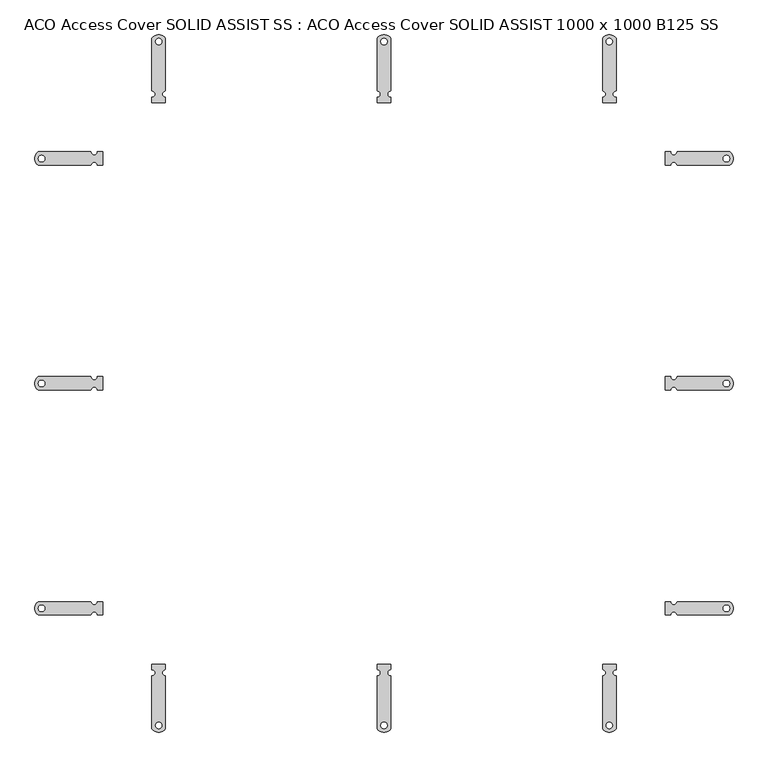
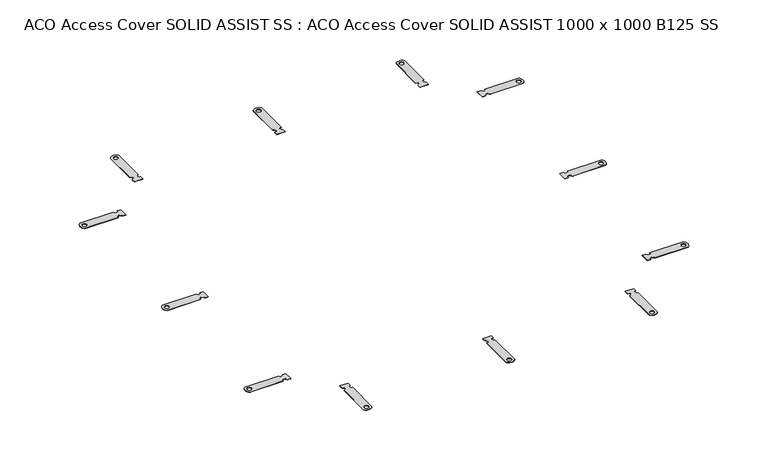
"""IFC4 building model written with IfcOpenShell, lengths in millimetres: proxy geometry, ACO Access Cover SOLID ASSIST SS : ACO Access Cover SOLID ASSIST 1000 x 1000 B125 SS."""

from ifc_helpers import new_model, si_unit, point, frame, frame_2d, origin, place, context, project, spatial, polyline, circle_curve, trimmed, segment, composite_curve, outline, extrude, source, transform, mapped, element, save


def aco_access_cover_solid_assist_ss_aco_access_cover_solid_80ac9a24(model_context):
    return source(origin(), model_context, "Body", "SweptSolid", [
        extrude(outline(composite_curve([segment(polyline([(-12.5, 542.5), (-12.5, 640.4874922)]), True, "CONTINUOUS"), segment(trimmed(circle_curve(frame_2d((0.0, 630.5)), 16.0), [point((-12.5, 640.4874922))], [point((12.5, 640.4874922))], False, "CARTESIAN"), True, "CONTINUOUS"), segment(polyline([(12.5, 640.4874922), (12.5, 542.5)]), True, "CONTINUOUS"), segment(trimmed(circle_curve(frame_2d((12.5, 536.5)), 6.0), [point((12.5, 542.5))], [point((12.5, 530.5))], True, "CARTESIAN"), True, "CONTINUOUS"), segment(polyline([(12.5, 530.5), (12.5, 520.5), (-12.5, 520.5), (-12.5, 530.5)]), True, "CONTINUOUS"), segment(trimmed(circle_curve(frame_2d((-12.5, 536.5)), 6.0), [point((-12.5, 530.5))], [point((-12.5, 542.5))], True, "CARTESIAN"), True, "CONTINUOUS")], self_intersect=False), holes=[composite_curve([segment(trimmed(circle_curve(frame_2d((0.0, 634.0)), 6.0), [point((-6.0, 634.0))], [point((6.0, 634.0))], True, "CARTESIAN"), True, "CONTINUOUS"), segment(trimmed(circle_curve(frame_2d((0.0, 634.0)), 6.0), [point((6.0, 634.0))], [point((-6.0, 634.0))], True, "CARTESIAN"), True, "CONTINUOUS")], self_intersect=False)]), frame((0.0, 0.0, -41.0), z_axis=(0.0, 0.0, 1.0), x_axis=(1.0, 0.0, 0.0)), (0.0, 0.0, 1.0), 1.0),
        extrude(outline(composite_curve([segment(trimmed(circle_curve(frame_2d((-12.5, -536.5)), 6.0), [point((-12.5, -542.5))], [point((-12.5, -530.5))], True, "CARTESIAN"), True, "CONTINUOUS"), segment(polyline([(-12.5, -530.5), (-12.5, -520.5), (12.5, -520.5), (12.5, -530.5)]), True, "CONTINUOUS"), segment(trimmed(circle_curve(frame_2d((12.5, -536.5)), 6.0), [point((12.5, -530.5))], [point((12.5, -542.5))], True, "CARTESIAN"), True, "CONTINUOUS"), segment(polyline([(12.5, -542.5), (12.5, -640.4874922)]), True, "CONTINUOUS"), segment(trimmed(circle_curve(frame_2d((0.0, -630.5)), 16.0), [point((12.5, -640.4874922))], [point((-12.5, -640.4874922))], False, "CARTESIAN"), True, "CONTINUOUS"), segment(polyline([(-12.5, -640.4874922), (-12.5, -542.5)]), True, "CONTINUOUS")], self_intersect=False), holes=[composite_curve([segment(trimmed(circle_curve(frame_2d((0.0, -634.0)), 6.0), [point((-6.0, -634.0))], [point((6.0, -634.0))], True, "CARTESIAN"), True, "CONTINUOUS"), segment(trimmed(circle_curve(frame_2d((0.0, -634.0)), 6.0), [point((6.0, -634.0))], [point((-6.0, -634.0))], True, "CARTESIAN"), True, "CONTINUOUS")], self_intersect=False)]), frame((0.0, 0.0, -41.0), z_axis=(0.0, 0.0, 1.0), x_axis=(1.0, 0.0, 0.0)), (0.0, 0.0, 1.0), 1.0),
        extrude(outline(composite_curve([segment(polyline([(521.0, 12.5), (531.0, 12.5)]), True, "CONTINUOUS"), segment(trimmed(circle_curve(frame_2d((537.0, 12.5)), 6.0), [point((531.0, 12.5))], [point((543.0, 12.5))], True, "CARTESIAN"), True, "CONTINUOUS"), segment(polyline([(543.0, 12.5), (640.9874922, 12.5)]), True, "CONTINUOUS"), segment(trimmed(circle_curve(frame_2d((631.0, 0.0)), 16.0), [point((640.9874922, 12.5))], [point((640.9874922, -12.5))], False, "CARTESIAN"), True, "CONTINUOUS"), segment(polyline([(640.9874922, -12.5), (543.0, -12.5)]), True, "CONTINUOUS"), segment(trimmed(circle_curve(frame_2d((537.0, -12.5)), 6.0), [point((543.0, -12.5))], [point((531.0, -12.5))], True, "CARTESIAN"), True, "CONTINUOUS"), segment(polyline([(531.0, -12.5), (521.0, -12.5), (521.0, 12.5)]), True, "CONTINUOUS")], self_intersect=False), holes=[composite_curve([segment(trimmed(circle_curve(frame_2d((634.5, 0.0)), 6.0), [point((628.5, 0.0))], [point((640.5, 0.0))], True, "CARTESIAN"), True, "CONTINUOUS"), segment(trimmed(circle_curve(frame_2d((634.5, 0.0)), 6.0), [point((640.5, 0.0))], [point((628.5, 0.0))], True, "CARTESIAN"), True, "CONTINUOUS")], self_intersect=False)]), frame((0.0, 0.0, -41.0), z_axis=(0.0, 0.0, 1.0), x_axis=(1.0, 0.0, 0.0)), (0.0, 0.0, 1.0), 1.0),
        extrude(outline(composite_curve([segment(polyline([(-521.0, 12.5), (-521.0, -12.5), (-531.0, -12.5)]), True, "CONTINUOUS"), segment(trimmed(circle_curve(frame_2d((-537.0, -12.5)), 6.0), [point((-531.0, -12.5))], [point((-543.0, -12.5))], True, "CARTESIAN"), True, "CONTINUOUS"), segment(polyline([(-543.0, -12.5), (-640.9874922, -12.5)]), True, "CONTINUOUS"), segment(trimmed(circle_curve(frame_2d((-631.0, 0.0)), 16.0), [point((-640.9874922, -12.5))], [point((-640.9874922, 12.5))], False, "CARTESIAN"), True, "CONTINUOUS"), segment(polyline([(-640.9874922, 12.5), (-543.0, 12.5)]), True, "CONTINUOUS"), segment(trimmed(circle_curve(frame_2d((-537.0, 12.5)), 6.0), [point((-543.0, 12.5))], [point((-531.0, 12.5))], True, "CARTESIAN"), True, "CONTINUOUS"), segment(polyline([(-531.0, 12.5), (-521.0, 12.5)]), True, "CONTINUOUS")], self_intersect=False), holes=[composite_curve([segment(trimmed(circle_curve(frame_2d((-634.5, 0.0)), 6.0), [point((-640.5, 0.0))], [point((-628.5, 0.0))], True, "CARTESIAN"), True, "CONTINUOUS"), segment(trimmed(circle_curve(frame_2d((-634.5, 0.0)), 6.0), [point((-628.5, 0.0))], [point((-640.5, 0.0))], True, "CARTESIAN"), True, "CONTINUOUS")], self_intersect=False)]), frame((0.0, 0.0, -41.0), z_axis=(0.0, 0.0, 1.0), x_axis=(1.0, 0.0, 0.0)), (0.0, 0.0, 1.0), 1.0),
        extrude(outline(composite_curve([segment(polyline([(521.0, 429.5), (531.0, 429.5)]), True, "CONTINUOUS"), segment(trimmed(circle_curve(frame_2d((537.0052893, 429.5)), 6.0052893), [point((531.0, 429.5))], [point((543.0105785, 429.5))], True, "CARTESIAN"), True, "CONTINUOUS"), segment(polyline([(543.0105785, 429.5), (640.9771339, 429.5)]), True, "CONTINUOUS"), segment(trimmed(circle_curve(frame_2d((631.0156688, 417.0)), 15.9837663), [point((640.9771339, 429.5))], [point((640.9771339, 404.5))], False, "CARTESIAN"), True, "CONTINUOUS"), segment(polyline([(640.9771339, 404.5), (543.023995, 404.5)]), True, "CONTINUOUS"), segment(trimmed(circle_curve(frame_2d((537.0319344, 404.5)), 5.9920606), [point((543.023995, 404.5))], [point((531.0398738, 404.5))], True, "CARTESIAN"), True, "CONTINUOUS"), segment(polyline([(531.0398738, 404.5), (521.0, 404.5), (521.0, 429.5)]), True, "CONTINUOUS")], self_intersect=False), holes=[composite_curve([segment(trimmed(circle_curve(frame_2d((634.5, 417.0)), 6.0), [point((628.5, 417.0))], [point((640.5, 417.0))], True, "CARTESIAN"), True, "CONTINUOUS"), segment(trimmed(circle_curve(frame_2d((634.5, 417.0)), 6.0), [point((640.5, 417.0))], [point((628.5, 417.0))], True, "CARTESIAN"), True, "CONTINUOUS")], self_intersect=False)]), frame((0.0, 0.0, -41.0), z_axis=(0.0, 0.0, 1.0), x_axis=(1.0, 0.0, 0.0)), (0.0, 0.0, 1.0), 1.0),
        extrude(outline(composite_curve([segment(polyline([(405.0, 520.5), (405.0, 530.5)]), True, "CONTINUOUS"), segment(trimmed(circle_curve(frame_2d((405.0, 536.5052893)), 6.0052893), [point((405.0, 530.5))], [point((405.0, 542.5105785))], True, "CARTESIAN"), True, "CONTINUOUS"), segment(polyline([(405.0, 542.5105785), (405.0, 640.4771339)]), True, "CONTINUOUS"), segment(trimmed(circle_curve(frame_2d((417.5, 630.5156688)), 15.9837663), [point((405.0, 640.4771339))], [point((430.0, 640.4771339))], False, "CARTESIAN"), True, "CONTINUOUS"), segment(polyline([(430.0, 640.4771339), (430.0, 542.523995)]), True, "CONTINUOUS"), segment(trimmed(circle_curve(frame_2d((430.0, 536.5319344)), 5.9920606), [point((430.0, 542.523995))], [point((430.0, 530.5398738))], True, "CARTESIAN"), True, "CONTINUOUS"), segment(polyline([(430.0, 530.5398738), (430.0, 520.5), (405.0, 520.5)]), True, "CONTINUOUS")], self_intersect=False), holes=[composite_curve([segment(trimmed(circle_curve(frame_2d((417.5, 634.0)), 6.0), [point((411.5, 634.0))], [point((423.5, 634.0))], True, "CARTESIAN"), True, "CONTINUOUS"), segment(trimmed(circle_curve(frame_2d((417.5, 634.0)), 6.0), [point((423.5, 634.0))], [point((411.5, 634.0))], True, "CARTESIAN"), True, "CONTINUOUS")], self_intersect=False)]), frame((0.0, 0.0, -41.0), z_axis=(0.0, 0.0, 1.0), x_axis=(1.0, 0.0, 0.0)), (0.0, 0.0, 1.0), 1.0),
        extrude(outline(composite_curve([segment(polyline([(521.0, -429.5), (521.0, -404.5), (531.0398738, -404.5)]), True, "CONTINUOUS"), segment(trimmed(circle_curve(frame_2d((537.0319344, -404.5)), 5.9920606), [point((531.0398738, -404.5))], [point((543.023995, -404.5))], True, "CARTESIAN"), True, "CONTINUOUS"), segment(polyline([(543.023995, -404.5), (640.9771339, -404.5)]), True, "CONTINUOUS"), segment(trimmed(circle_curve(frame_2d((631.0156688, -417.0)), 15.9837663), [point((640.9771339, -404.5))], [point((640.9771339, -429.5))], False, "CARTESIAN"), True, "CONTINUOUS"), segment(polyline([(640.9771339, -429.5), (543.0105785, -429.5)]), True, "CONTINUOUS"), segment(trimmed(circle_curve(frame_2d((537.0052893, -429.5)), 6.0052893), [point((543.0105785, -429.5))], [point((531.0, -429.5))], True, "CARTESIAN"), True, "CONTINUOUS"), segment(polyline([(531.0, -429.5), (521.0, -429.5)]), True, "CONTINUOUS")], self_intersect=False), holes=[composite_curve([segment(trimmed(circle_curve(frame_2d((634.5, -417.0)), 6.0), [point((628.5, -417.0))], [point((640.5, -417.0))], True, "CARTESIAN"), True, "CONTINUOUS"), segment(trimmed(circle_curve(frame_2d((634.5, -417.0)), 6.0), [point((640.5, -417.0))], [point((628.5, -417.0))], True, "CARTESIAN"), True, "CONTINUOUS")], self_intersect=False)]), frame((0.0, 0.0, -41.0), z_axis=(0.0, 0.0, 1.0), x_axis=(1.0, 0.0, 0.0)), (0.0, 0.0, 1.0), 1.0),
        extrude(outline(composite_curve([segment(polyline([(-521.0, 429.5), (-521.0, 404.5), (-531.0398738, 404.5)]), True, "CONTINUOUS"), segment(trimmed(circle_curve(frame_2d((-537.0319344, 404.5)), 5.9920606), [point((-531.0398738, 404.5))], [point((-543.023995, 404.5))], True, "CARTESIAN"), True, "CONTINUOUS"), segment(polyline([(-543.023995, 404.5), (-640.9771339, 404.5)]), True, "CONTINUOUS"), segment(trimmed(circle_curve(frame_2d((-631.0156688, 417.0)), 15.9837663), [point((-640.9771339, 404.5))], [point((-640.9771339, 429.5))], False, "CARTESIAN"), True, "CONTINUOUS"), segment(polyline([(-640.9771339, 429.5), (-543.0105785, 429.5)]), True, "CONTINUOUS"), segment(trimmed(circle_curve(frame_2d((-537.0052893, 429.5)), 6.0052893), [point((-543.0105785, 429.5))], [point((-531.0, 429.5))], True, "CARTESIAN"), True, "CONTINUOUS"), segment(polyline([(-531.0, 429.5), (-521.0, 429.5)]), True, "CONTINUOUS")], self_intersect=False), holes=[composite_curve([segment(trimmed(circle_curve(frame_2d((-634.5, 417.0)), 6.0), [point((-640.5, 417.0))], [point((-628.5, 417.0))], True, "CARTESIAN"), True, "CONTINUOUS"), segment(trimmed(circle_curve(frame_2d((-634.5, 417.0)), 6.0), [point((-628.5, 417.0))], [point((-640.5, 417.0))], True, "CARTESIAN"), True, "CONTINUOUS")], self_intersect=False)]), frame((0.0, 0.0, -41.0), z_axis=(0.0, 0.0, 1.0), x_axis=(1.0, 0.0, 0.0)), (0.0, 0.0, 1.0), 1.0),
        extrude(outline(composite_curve([segment(polyline([(-405.0, 520.5), (-430.0, 520.5), (-430.0, 530.5398738)]), True, "CONTINUOUS"), segment(trimmed(circle_curve(frame_2d((-430.0, 536.5319344)), 5.9920606), [point((-430.0, 530.5398738))], [point((-430.0, 542.523995))], True, "CARTESIAN"), True, "CONTINUOUS"), segment(polyline([(-430.0, 542.523995), (-430.0, 640.4771339)]), True, "CONTINUOUS"), segment(trimmed(circle_curve(frame_2d((-417.5, 630.5156688)), 15.9837663), [point((-430.0, 640.4771339))], [point((-405.0, 640.4771339))], False, "CARTESIAN"), True, "CONTINUOUS"), segment(polyline([(-405.0, 640.4771339), (-405.0, 542.5105785)]), True, "CONTINUOUS"), segment(trimmed(circle_curve(frame_2d((-405.0, 536.5052893)), 6.0052893), [point((-405.0, 542.5105785))], [point((-405.0, 530.5))], True, "CARTESIAN"), True, "CONTINUOUS"), segment(polyline([(-405.0, 530.5), (-405.0, 520.5)]), True, "CONTINUOUS")], self_intersect=False), holes=[composite_curve([segment(trimmed(circle_curve(frame_2d((-417.5, 634.0)), 6.0), [point((-423.5, 634.0))], [point((-411.5, 634.0))], True, "CARTESIAN"), True, "CONTINUOUS"), segment(trimmed(circle_curve(frame_2d((-417.5, 634.0)), 6.0), [point((-411.5, 634.0))], [point((-423.5, 634.0))], True, "CARTESIAN"), True, "CONTINUOUS")], self_intersect=False)]), frame((0.0, 0.0, -41.0), z_axis=(0.0, 0.0, 1.0), x_axis=(1.0, 0.0, 0.0)), (0.0, 0.0, 1.0), 1.0),
        extrude(outline(composite_curve([segment(polyline([(-521.0, -429.5), (-531.0, -429.5)]), True, "CONTINUOUS"), segment(trimmed(circle_curve(frame_2d((-537.0052893, -429.5)), 6.0052893), [point((-531.0, -429.5))], [point((-543.0105785, -429.5))], True, "CARTESIAN"), True, "CONTINUOUS"), segment(polyline([(-543.0105785, -429.5), (-640.9771339, -429.5)]), True, "CONTINUOUS"), segment(trimmed(circle_curve(frame_2d((-631.0156688, -417.0)), 15.9837663), [point((-640.9771339, -429.5))], [point((-640.9771339, -404.5))], False, "CARTESIAN"), True, "CONTINUOUS"), segment(polyline([(-640.9771339, -404.5), (-543.023995, -404.5)]), True, "CONTINUOUS"), segment(trimmed(circle_curve(frame_2d((-537.0319344, -404.5)), 5.9920606), [point((-543.023995, -404.5))], [point((-531.0398738, -404.5))], True, "CARTESIAN"), True, "CONTINUOUS"), segment(polyline([(-531.0398738, -404.5), (-521.0, -404.5), (-521.0, -429.5)]), True, "CONTINUOUS")], self_intersect=False), holes=[composite_curve([segment(trimmed(circle_curve(frame_2d((-634.5, -417.0)), 6.0), [point((-640.5, -417.0))], [point((-628.5, -417.0))], True, "CARTESIAN"), True, "CONTINUOUS"), segment(trimmed(circle_curve(frame_2d((-634.5, -417.0)), 6.0), [point((-628.5, -417.0))], [point((-640.5, -417.0))], True, "CARTESIAN"), True, "CONTINUOUS")], self_intersect=False)]), frame((0.0, 0.0, -41.0), z_axis=(0.0, 0.0, 1.0), x_axis=(1.0, 0.0, 0.0)), (0.0, 0.0, 1.0), 1.0),
        extrude(outline(composite_curve([segment(polyline([(405.0, -520.5), (430.0, -520.5), (430.0, -530.5398738)]), True, "CONTINUOUS"), segment(trimmed(circle_curve(frame_2d((430.0, -536.5319344)), 5.9920606), [point((430.0, -530.5398738))], [point((430.0, -542.523995))], True, "CARTESIAN"), True, "CONTINUOUS"), segment(polyline([(430.0, -542.523995), (430.0, -640.4771339)]), True, "CONTINUOUS"), segment(trimmed(circle_curve(frame_2d((417.5, -630.5156688)), 15.9837663), [point((430.0, -640.4771339))], [point((405.0, -640.4771339))], False, "CARTESIAN"), True, "CONTINUOUS"), segment(polyline([(405.0, -640.4771339), (405.0, -542.5105785)]), True, "CONTINUOUS"), segment(trimmed(circle_curve(frame_2d((405.0, -536.5052893)), 6.0052893), [point((405.0, -542.5105785))], [point((405.0, -530.5))], True, "CARTESIAN"), True, "CONTINUOUS"), segment(polyline([(405.0, -530.5), (405.0, -520.5)]), True, "CONTINUOUS")], self_intersect=False), holes=[composite_curve([segment(trimmed(circle_curve(frame_2d((417.5, -634.0)), 6.0), [point((411.5, -634.0))], [point((423.5, -634.0))], True, "CARTESIAN"), True, "CONTINUOUS"), segment(trimmed(circle_curve(frame_2d((417.5, -634.0)), 6.0), [point((423.5, -634.0))], [point((411.5, -634.0))], True, "CARTESIAN"), True, "CONTINUOUS")], self_intersect=False)]), frame((0.0, 0.0, -41.0), z_axis=(0.0, 0.0, 1.0), x_axis=(1.0, 0.0, 0.0)), (0.0, 0.0, 1.0), 1.0),
        extrude(outline(composite_curve([segment(polyline([(-405.0, -520.5), (-405.0, -530.5)]), True, "CONTINUOUS"), segment(trimmed(circle_curve(frame_2d((-405.0, -536.5052893)), 6.0052893), [point((-405.0, -530.5))], [point((-405.0, -542.5105785))], True, "CARTESIAN"), True, "CONTINUOUS"), segment(polyline([(-405.0, -542.5105785), (-405.0, -640.4771339)]), True, "CONTINUOUS"), segment(trimmed(circle_curve(frame_2d((-417.5, -630.5156688)), 15.9837663), [point((-405.0, -640.4771339))], [point((-430.0, -640.4771339))], False, "CARTESIAN"), True, "CONTINUOUS"), segment(polyline([(-430.0, -640.4771339), (-430.0, -542.523995)]), True, "CONTINUOUS"), segment(trimmed(circle_curve(frame_2d((-430.0, -536.5319344)), 5.9920606), [point((-430.0, -542.523995))], [point((-430.0, -530.5398738))], True, "CARTESIAN"), True, "CONTINUOUS"), segment(polyline([(-430.0, -530.5398738), (-430.0, -520.5), (-405.0, -520.5)]), True, "CONTINUOUS")], self_intersect=False), holes=[composite_curve([segment(trimmed(circle_curve(frame_2d((-417.5, -634.0)), 6.0), [point((-423.5, -634.0))], [point((-411.5, -634.0))], True, "CARTESIAN"), True, "CONTINUOUS"), segment(trimmed(circle_curve(frame_2d((-417.5, -634.0)), 6.0), [point((-411.5, -634.0))], [point((-423.5, -634.0))], True, "CARTESIAN"), True, "CONTINUOUS")], self_intersect=False)]), frame((0.0, 0.0, -41.0), z_axis=(0.0, 0.0, 1.0), x_axis=(1.0, 0.0, 0.0)), (0.0, 0.0, 1.0), 1.0),
    ])


if __name__ == "__main__":
    model = new_model("IFC4")
    model_context = context("Model", 3, world=origin())
    ifc_project = project(units=[si_unit("LENGTHUNIT", "METRE", prefix="MILLI")], contexts=[model_context])
    site = spatial("IfcSite", under=ifc_project)
    building = spatial("IfcBuilding", under=site)
    placement = place(None, origin())
    aco_access_cover_solid_assist_ss_aco_access_cover_solid_shape = aco_access_cover_solid_assist_ss_aco_access_cover_solid_80ac9a24(model_context)
    element("IfcBuildingElementProxy", 1, Name="ACO Access Cover SOLID ASSIST SS : ACO Access Cover SOLID ASSIST 1000 x 1000 B125 SS", ObjectType="ACO Access Cover SOLID ASSIST SS : ACO Access Cover SOLID ASSIST 1000 x 1000 B125 SS", at=placement, inside=building, context=model_context, shape_type="MappedRepresentation", body=[
        mapped(aco_access_cover_solid_assist_ss_aco_access_cover_solid_shape, transform((0.0, 0.0, 0.0), x_axis=(1.0, 0.0, 0.0), y_axis=(0.0, 1.0, 0.0), z_axis=(0.0, 0.0, 1.0))),
    ])
    save(model, "model.ifc")
